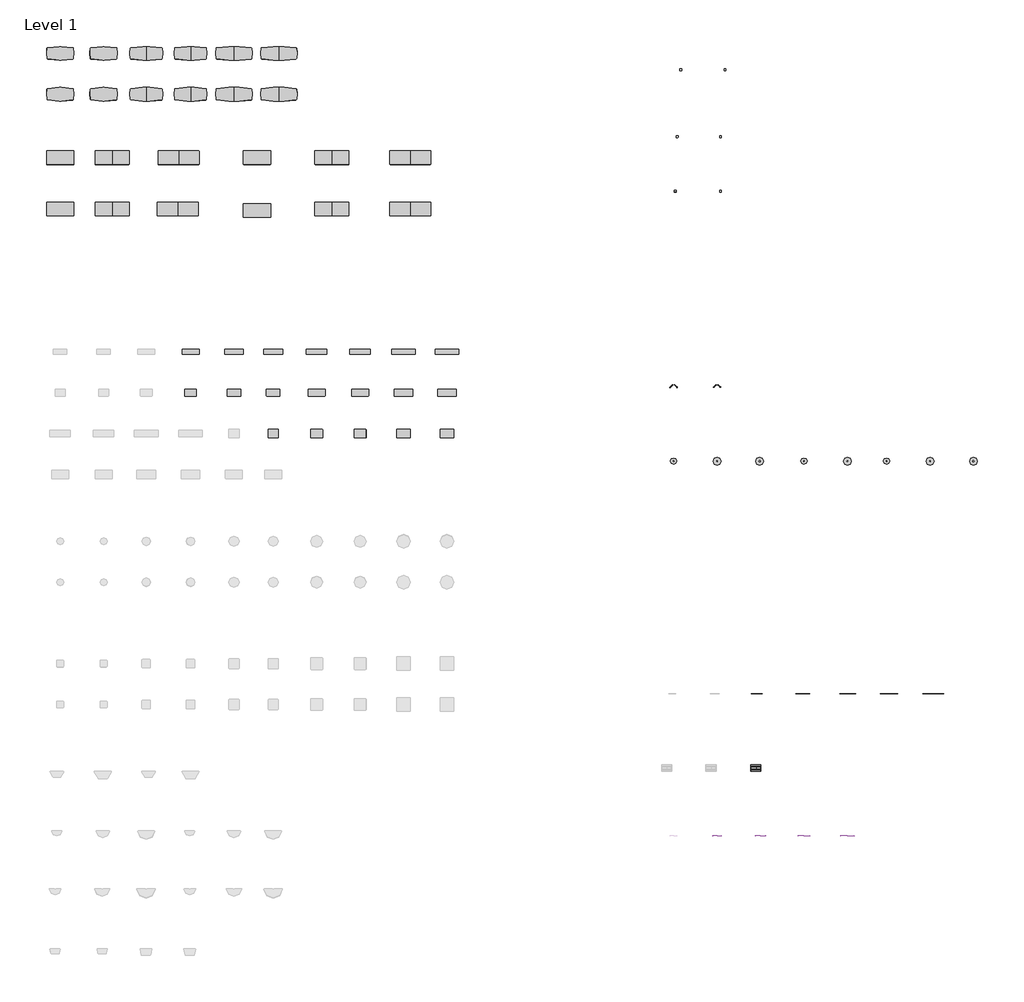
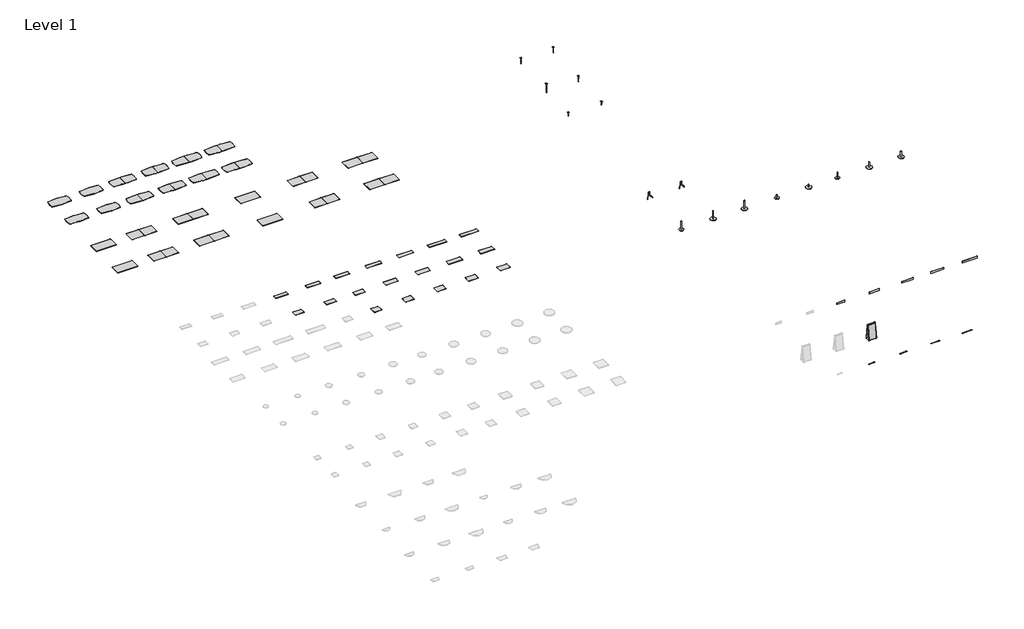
# One storey, part 2 of 2: 69 furniture elements.
"""IFC4 building model written with IfcOpenShell, lengths in millimetres."""

from ifc_helpers import new_model, si_unit, origin, place, context, project, spatial, transform, mapped, element, save
from components import furniture_00fd4bd9, furniture_b53e391e, furniture_6f91a869, furniture_bb55af10, furniture_92243f09, furniture_33526d85, furniture_eebffce9, furniture_dabab4df, furniture_efd10311, furniture_15fa902d, furniture_ad01e5af, furniture_11480e7a, furniture_8935219b, furniture_cd082a74, furniture_1_1_8_thickness_x_120w_hpl_d0bc5441, furniture_1_1_8_thickness_x_144w_hpl_d542ee99, furniture_1_1_8_thickness_x_96w_hpl_c60ebc48, furniture_1_1_8thickness_x_120w_hpl_e821b9b4, furniture_1_1_8thickness_x_144w_hpl_b3f6ecbc, furniture_1_1_8thickness_x_96w_hpl_99a8e3d7, furniture_1_3_8_thickness_x_120w_hpl_50a926c5, furniture_1_3_8_thickness_x_144w_hpl_0d01c1f1, furniture_1_3_8_thickness_x_96w_hpl_96594def, furniture_1_3_8thickness_x_120w_hpl_f4fb3ff3, furniture_1_3_8thickness_x_144w_hpl_966f59d3, furniture_1_3_8thickness_x_96w_hpl_a78dff32, furniture_30w_d64dd9da, furniture_36w_01fbb189, furniture_37_5_8w_fdee5de8, furniture_42w_a0c92efd, furniture_48w_9118acb4, furniture_49_5_8w_46fa39df, furniture_55_5_8w_ef73173b, furniture_61_5_8w_e17e0118, furniture_73_5_8w_1875b487, cafe_height_22dia_base_x_3dia_column_649dd6fb, cafe_height_28dia_base_x_3dia_column_d5198972, cafe_height_28dia_base_x_5dia_column_bb7a02e7, coffee_height_22dia_base_x_3dia_column_a589476b, coffee_height_28dia_base_x_3dia_column_50198b44, coffee_table_caster_74038b93, coffee_table_glide_f4786f68, one_post_leg_caster_7bd2f1b1, one_post_leg_caster_003eadf5, one_post_leg_glide_736f2f15, one_post_leg_glide_20b29ec5, markerboard_both_sides_742e3653, two_t_leg_caster_d90350da, two_t_leg_glide_a9bf8ce5

model = new_model("IFC4")

# Units and contexts
model_context = context("Model", 3, world=origin())
ifc_project = project(units=[si_unit("LENGTHUNIT", "METRE", prefix="MILLI")], contexts=[model_context])

# Site, building, storey
site = spatial("IfcSite", under=ifc_project)
building = spatial("IfcBuilding", under=site)
storey = spatial("IfcBuildingStorey", under=building, Name="Level 1", Elevation=0.0)

# Furniture
placement = place(None, origin())
furniture_shape = furniture_00fd4bd9(model_context)
element("IfcFurniture", 1, ObjectType="Steelcase - Groupwork - Table - Base : Round Table Base - 27 3/8H x 28dia Base x 5dia Column", at=placement, inside=storey, context=model_context, shape_type="MappedRepresentation", body=[
    mapped(furniture_shape, transform((855850.5766429, -26682.853043, 0.0), x_axis=(1.0, 0.0, 0.0), y_axis=(0.0, 1.0, 0.0), z_axis=(0.0, 0.0, 1.0))),
])
furniture_2_shape = furniture_b53e391e(model_context)
element("IfcFurniture", 2, ObjectType="Steelcase - Groupwork - Table - Base : Round Table Base - 27 3/8H x 28dia Base x 3dia Column", at=placement, inside=storey, context=model_context, shape_type="MappedRepresentation", body=[
    mapped(furniture_2_shape, transform((851964.3766429, -26682.853043, 0.0), x_axis=(1.0, 0.0, 0.0), y_axis=(0.0, 1.0, 0.0), z_axis=(0.0, 0.0, 1.0))),
])
furniture_3_shape = furniture_6f91a869(model_context)
element("IfcFurniture", 3, ObjectType="Steelcase - Groupwork - Table - Base : Round Table Base - 27 3/8H x 22dia Base x 3dia Column", at=placement, inside=storey, context=model_context, shape_type="MappedRepresentation", body=[
    mapped(furniture_3_shape, transform((848078.1766429, -26682.853043, 0.0), x_axis=(1.0, 0.0, 0.0), y_axis=(0.0, 1.0, 0.0), z_axis=(0.0, 0.0, 1.0))),
])
furniture_4_shape = furniture_bb55af10(model_context)
element("IfcFurniture", 4, ObjectType="Steelcase - Groupwork - Table - Top - Rectangular : 24D x 48W - HPL", at=placement, inside=storey, context=model_context, shape_type="MappedRepresentation", body=[
    mapped(furniture_4_shape, transform((789737.3766429, -20553.0236672, 0.0), x_axis=(1.0, 0.0, 0.0), y_axis=(0.0, 1.0, 0.0), z_axis=(0.0, 0.0, 1.0))),
])
element("IfcFurniture", 5, ObjectType="Steelcase - Groupwork - Table - Top - Rectangular : 24D x 48W - LPL", at=placement, inside=storey, context=model_context, shape_type="MappedRepresentation", body=[
    mapped(furniture_4_shape, transform((793242.5766429, -20553.0236672, 0.0), x_axis=(1.0, 0.0, 0.0), y_axis=(0.0, 1.0, 0.0), z_axis=(0.0, 0.0, 1.0))),
])
furniture_5_shape = furniture_92243f09(model_context)
element("IfcFurniture", 6, ObjectType="Steelcase - Groupwork - Table - Top - Rectangular : 18D x 66W - HPL", at=placement, inside=storey, context=model_context, shape_type="MappedRepresentation", body=[
    mapped(furniture_5_shape, transform((789737.3766429, -16895.4236672, 0.0), x_axis=(1.0, 0.0, 0.0), y_axis=(0.0, 1.0, 0.0), z_axis=(0.0, 0.0, 1.0))),
])
furniture_6_shape = furniture_33526d85(model_context)
element("IfcFurniture", 7, ObjectType="Steelcase - Groupwork - Table - Top - Rectangular : 18D x 72W - HPL", at=placement, inside=storey, context=model_context, shape_type="MappedRepresentation", body=[
    mapped(furniture_6_shape, transform((797128.7766429, -16895.4236672, 0.0), x_axis=(1.0, 0.0, 0.0), y_axis=(0.0, 1.0, 0.0), z_axis=(0.0, 0.0, 1.0))),
])
furniture_7_shape = furniture_eebffce9(model_context)
element("IfcFurniture", 8, ObjectType="Steelcase - Groupwork - Table - Top - Rectangular : 18D x 84W - HPL", at=placement, inside=storey, context=model_context, shape_type="MappedRepresentation", body=[
    mapped(furniture_7_shape, transform((804901.1766429, -16895.4236672, 0.0), x_axis=(1.0, 0.0, 0.0), y_axis=(0.0, 1.0, 0.0), z_axis=(0.0, 0.0, 1.0))),
])
furniture_8_shape = furniture_dabab4df(model_context)
element("IfcFurniture", 9, ObjectType="Steelcase - Groupwork - Table - Top - Rectangular : 24D x 60W - HPL", at=placement, inside=storey, context=model_context, shape_type="MappedRepresentation", body=[
    mapped(furniture_8_shape, transform((797128.7766429, -20553.0236672, 0.0), x_axis=(1.0, 0.0, 0.0), y_axis=(0.0, 1.0, 0.0), z_axis=(0.0, 0.0, 1.0))),
])
furniture_9_shape = furniture_efd10311(model_context)
element("IfcFurniture", 10, ObjectType="Steelcase - Groupwork - Table - Top - Rectangular : 24D x 66W - HPL", at=placement, inside=storey, context=model_context, shape_type="MappedRepresentation", body=[
    mapped(furniture_9_shape, transform((804901.1766429, -20553.0236672, 0.0), x_axis=(1.0, 0.0, 0.0), y_axis=(0.0, 1.0, 0.0), z_axis=(0.0, 0.0, 1.0))),
])
furniture_10_shape = furniture_15fa902d(model_context)
element("IfcFurniture", 11, ObjectType="Steelcase - Groupwork - Table - Top - Rectangular : 18D x 60W - LPL", at=placement, inside=storey, context=model_context, shape_type="MappedRepresentation", body=[
    mapped(furniture_10_shape, transform((785851.1766429, -16895.4236672, 0.0), x_axis=(1.0, 0.0, 0.0), y_axis=(0.0, 1.0, 0.0), z_axis=(0.0, 0.0, 1.0))),
])
element("IfcFurniture", 12, ObjectType="Steelcase - Groupwork - Table - Top - Rectangular : 18D x 66W - LPL", at=placement, inside=storey, context=model_context, shape_type="MappedRepresentation", body=[
    mapped(furniture_5_shape, transform((793242.5766429, -16895.4236672, 0.0), x_axis=(1.0, 0.0, 0.0), y_axis=(0.0, 1.0, 0.0), z_axis=(0.0, 0.0, 1.0))),
])
element("IfcFurniture", 13, ObjectType="Steelcase - Groupwork - Table - Top - Rectangular : 18D x 72W - LPL", at=placement, inside=storey, context=model_context, shape_type="MappedRepresentation", body=[
    mapped(furniture_6_shape, transform((801014.9766429, -16895.4236672, 0.0), x_axis=(1.0, 0.0, 0.0), y_axis=(0.0, 1.0, 0.0), z_axis=(0.0, 0.0, 1.0))),
])
element("IfcFurniture", 14, ObjectType="Steelcase - Groupwork - Table - Top - Rectangular : 18D x 84W - LPL", at=placement, inside=storey, context=model_context, shape_type="MappedRepresentation", body=[
    mapped(furniture_7_shape, transform((808787.3766429, -16895.4236672, 0.0), x_axis=(1.0, 0.0, 0.0), y_axis=(0.0, 1.0, 0.0), z_axis=(0.0, 0.0, 1.0))),
])
furniture_11_shape = furniture_ad01e5af(model_context)
element("IfcFurniture", 15, ObjectType="Steelcase - Groupwork - Table - Top - Rectangular : 24D x 42W - LPL", at=placement, inside=storey, context=model_context, shape_type="MappedRepresentation", body=[
    mapped(furniture_11_shape, transform((785851.1766429, -20553.0236672, 0.0), x_axis=(1.0, 0.0, 0.0), y_axis=(0.0, 1.0, 0.0), z_axis=(0.0, 0.0, 1.0))),
])
element("IfcFurniture", 16, ObjectType="Steelcase - Groupwork - Table - Top - Rectangular : 24D x 60W - LPL", at=placement, inside=storey, context=model_context, shape_type="MappedRepresentation", body=[
    mapped(furniture_8_shape, transform((801014.9766429, -20553.0236672, 0.0), x_axis=(1.0, 0.0, 0.0), y_axis=(0.0, 1.0, 0.0), z_axis=(0.0, 0.0, 1.0))),
])
element("IfcFurniture", 17, ObjectType="Steelcase - Groupwork - Table - Top - Rectangular : 24D x 66W - LPL", at=placement, inside=storey, context=model_context, shape_type="MappedRepresentation", body=[
    mapped(furniture_9_shape, transform((808787.3766429, -20553.0236672, 0.0), x_axis=(1.0, 0.0, 0.0), y_axis=(0.0, 1.0, 0.0), z_axis=(0.0, 0.0, 1.0))),
])
furniture_12_shape = furniture_11480e7a(model_context)
element("IfcFurniture", 18, ObjectType="Steelcase - Groupwork - Table - Top - Rectangular : 30D x 42W - HPL", at=placement, inside=storey, context=model_context, shape_type="MappedRepresentation", body=[
    mapped(furniture_12_shape, transform((797128.7766429, -24210.6236672, 0.0), x_axis=(1.0, 0.0, 0.0), y_axis=(0.0, 1.0, 0.0), z_axis=(0.0, 0.0, 1.0))),
])
furniture_13_shape = furniture_8935219b(model_context)
element("IfcFurniture", 19, ObjectType="Steelcase - Groupwork - Table - Top - Rectangular : 30D x 48W - HPL", at=placement, inside=storey, context=model_context, shape_type="MappedRepresentation", body=[
    mapped(furniture_13_shape, transform((804901.1766429, -24210.6236672, 0.0), x_axis=(1.0, 0.0, 0.0), y_axis=(0.0, 1.0, 0.0), z_axis=(0.0, 0.0, 1.0))),
])
furniture_14_shape = furniture_cd082a74(model_context)
element("IfcFurniture", 20, ObjectType="Steelcase - Groupwork - Table - Top - Rectangular : 30D x 36W - LPL", at=placement, inside=storey, context=model_context, shape_type="MappedRepresentation", body=[
    mapped(furniture_14_shape, transform((793242.5766429, -24210.6236672, 0.0), x_axis=(1.0, 0.0, 0.0), y_axis=(0.0, 1.0, 0.0), z_axis=(0.0, 0.0, 1.0))),
])
element("IfcFurniture", 21, ObjectType="Steelcase - Groupwork - Table - Top - Rectangular : 30D x 42W - LPL", at=placement, inside=storey, context=model_context, shape_type="MappedRepresentation", body=[
    mapped(furniture_12_shape, transform((801014.9766429, -24210.6236672, 0.0), x_axis=(1.0, 0.0, 0.0), y_axis=(0.0, 1.0, 0.0), z_axis=(0.0, 0.0, 1.0))),
])
element("IfcFurniture", 22, ObjectType="Steelcase - Groupwork - Table - Top - Rectangular : 30D x 48W - LPL", at=placement, inside=storey, context=model_context, shape_type="MappedRepresentation", body=[
    mapped(furniture_13_shape, transform((808787.3766429, -24210.6236672, 0.0), x_axis=(1.0, 0.0, 0.0), y_axis=(0.0, 1.0, 0.0), z_axis=(0.0, 0.0, 1.0))),
])
furniture_1_1_8_thickness_x_120w_hpl_shape = furniture_1_1_8_thickness_x_120w_hpl_d0bc5441(model_context)
element("IfcFurniture", 23, ObjectType="Steelcase - Groupwork - Table - Conference Table Top - Rectangular : 1 1/8 Thickness x 120W - HPL", at=placement, inside=storey, context=model_context, shape_type="MappedRepresentation", body=[
    mapped(furniture_1_1_8_thickness_x_120w_hpl_shape, transform((778840.7766429, -4111.2858647, 0.0), x_axis=(1.0, 0.0, 0.0), y_axis=(0.0, 1.0, 0.0), z_axis=(0.0, 0.0, 1.0))),
])
element("IfcFurniture", 24, ObjectType="Steelcase - Groupwork - Table - Conference Table Top - Rectangular : 1 1/8 Thickness x 120W - LPL", at=placement, inside=storey, context=model_context, shape_type="MappedRepresentation", body=[
    mapped(furniture_1_1_8_thickness_x_120w_hpl_shape, transform((778840.7766429, 460.7141353, 0.0), x_axis=(1.0, 0.0, 0.0), y_axis=(0.0, 1.0, 0.0), z_axis=(0.0, 0.0, 1.0))),
])
furniture_1_1_8_thickness_x_144w_hpl_shape = furniture_1_1_8_thickness_x_144w_hpl_d542ee99(model_context)
element("IfcFurniture", 25, ObjectType="Steelcase - Groupwork - Table - Conference Table Top - Rectangular : 1 1/8 Thickness x 144W - HPL", at=placement, inside=storey, context=model_context, shape_type="MappedRepresentation", body=[
    mapped(furniture_1_1_8_thickness_x_144w_hpl_shape, transform((784708.1766429, -4111.2858647, 0.0), x_axis=(1.0, 0.0, 0.0), y_axis=(0.0, 1.0, 0.0), z_axis=(0.0, 0.0, 1.0))),
])
element("IfcFurniture", 26, ObjectType="Steelcase - Groupwork - Table - Conference Table Top - Rectangular : 1 1/8 Thickness x 144W - LPL", at=placement, inside=storey, context=model_context, shape_type="MappedRepresentation", body=[
    mapped(furniture_1_1_8_thickness_x_144w_hpl_shape, transform((784784.3766429, 460.7141353, 0.0), x_axis=(1.0, 0.0, 0.0), y_axis=(0.0, 1.0, 0.0), z_axis=(0.0, 0.0, 1.0))),
])
furniture_1_1_8_thickness_x_96w_hpl_shape = furniture_1_1_8_thickness_x_96w_hpl_c60ebc48(model_context)
element("IfcFurniture", 27, ObjectType="Steelcase - Groupwork - Table - Conference Table Top - Rectangular : 1 1/8 Thickness x 96W - HPL", at=placement, inside=storey, context=model_context, shape_type="MappedRepresentation", body=[
    mapped(furniture_1_1_8_thickness_x_96w_hpl_shape, transform((774192.5766429, -4111.2858647, 0.0), x_axis=(1.0, 0.0, 0.0), y_axis=(0.0, 1.0, 0.0), z_axis=(0.0, 0.0, 1.0))),
])
element("IfcFurniture", 28, ObjectType="Steelcase - Groupwork - Table - Conference Table Top - Rectangular : 1 1/8 Thickness x 96W - LPL", at=placement, inside=storey, context=model_context, shape_type="MappedRepresentation", body=[
    mapped(furniture_1_1_8_thickness_x_96w_hpl_shape, transform((774192.5766429, 460.7141353, 0.0), x_axis=(1.0, 0.0, 0.0), y_axis=(0.0, 1.0, 0.0), z_axis=(0.0, 0.0, 1.0))),
])
furniture_1_1_8thickness_x_120w_hpl_shape = furniture_1_1_8thickness_x_120w_hpl_e821b9b4(model_context)
element("IfcFurniture", 29, ObjectType="Steelcase - Groupwork - Table - Conference Table Top - Boat Shaped : 1 1/8Thickness x 120W - HPL", at=placement, inside=storey, context=model_context, shape_type="MappedRepresentation", body=[
    mapped(furniture_1_1_8thickness_x_120w_hpl_shape, transform((780641.1766429, 9183.9937122, 0.0), x_axis=(1.0, 0.0, 0.0), y_axis=(0.0, 1.0, 0.0), z_axis=(0.0, 0.0, 1.0))),
])
element("IfcFurniture", 30, ObjectType="Steelcase - Groupwork - Table - Conference Table Top - Boat Shaped : 1 1/8Thickness x 120W - LPL", at=placement, inside=storey, context=model_context, shape_type="MappedRepresentation", body=[
    mapped(furniture_1_1_8thickness_x_120w_hpl_shape, transform((784603.5766429, 9183.9937122, 0.0), x_axis=(1.0, 0.0, 0.0), y_axis=(0.0, 1.0, 0.0), z_axis=(0.0, 0.0, 1.0))),
])
furniture_1_1_8thickness_x_144w_hpl_shape = furniture_1_1_8thickness_x_144w_hpl_b3f6ecbc(model_context)
element("IfcFurniture", 31, ObjectType="Steelcase - Groupwork - Table - Conference Table Top - Boat Shaped : 1 1/8Thickness x 144W - HPL", at=placement, inside=storey, context=model_context, shape_type="MappedRepresentation", body=[
    mapped(furniture_1_1_8thickness_x_144w_hpl_shape, transform((788489.7766429, 9183.9937122, 0.0), x_axis=(1.0, 0.0, 0.0), y_axis=(0.0, 1.0, 0.0), z_axis=(0.0, 0.0, 1.0))),
])
element("IfcFurniture", 32, ObjectType="Steelcase - Groupwork - Table - Conference Table Top - Boat Shaped : 1 1/8Thickness x 144W - LPL", at=placement, inside=storey, context=model_context, shape_type="MappedRepresentation", body=[
    mapped(furniture_1_1_8thickness_x_144w_hpl_shape, transform((792502.9766429, 9183.9937122, 0.0), x_axis=(1.0, 0.0, 0.0), y_axis=(0.0, 1.0, 0.0), z_axis=(0.0, 0.0, 1.0))),
])
furniture_1_1_8thickness_x_96w_hpl_shape = furniture_1_1_8thickness_x_96w_hpl_99a8e3d7(model_context)
element("IfcFurniture", 33, ObjectType="Steelcase - Groupwork - Table - Conference Table Top - Boat Shaped : 1 1/8Thickness x 96W - HPL", at=placement, inside=storey, context=model_context, shape_type="MappedRepresentation", body=[
    mapped(furniture_1_1_8thickness_x_96w_hpl_shape, transform((772944.9766429, 9183.9937122, 0.0), x_axis=(1.0, 0.0, 0.0), y_axis=(0.0, 1.0, 0.0), z_axis=(0.0, 0.0, 1.0))),
])
element("IfcFurniture", 34, ObjectType="Steelcase - Groupwork - Table - Conference Table Top - Boat Shaped : 1 1/8Thickness x 96W - LPL", at=placement, inside=storey, context=model_context, shape_type="MappedRepresentation", body=[
    mapped(furniture_1_1_8thickness_x_96w_hpl_shape, transform((776831.1766429, 9183.9937122, 0.0), x_axis=(1.0, 0.0, 0.0), y_axis=(0.0, 1.0, 0.0), z_axis=(0.0, 0.0, 1.0))),
])
furniture_1_3_8_thickness_x_120w_hpl_shape = furniture_1_3_8_thickness_x_120w_hpl_50a926c5(model_context)
element("IfcFurniture", 35, ObjectType="Steelcase - Groupwork - Table - Conference Table Top - Rectangular : 1 3/8 Thickness x 120W - HPL", at=placement, inside=storey, context=model_context, shape_type="MappedRepresentation", body=[
    mapped(furniture_1_3_8_thickness_x_120w_hpl_shape, transform((798500.3766429, -4111.2858647, 0.0), x_axis=(1.0, 0.0, 0.0), y_axis=(0.0, 1.0, 0.0), z_axis=(0.0, 0.0, 1.0))),
])
element("IfcFurniture", 36, ObjectType="Steelcase - Groupwork - Table - Conference Table Top - Rectangular : 1 3/8 Thickness x 120W - LPL", at=placement, inside=storey, context=model_context, shape_type="MappedRepresentation", body=[
    mapped(furniture_1_3_8_thickness_x_120w_hpl_shape, transform((798500.3766429, 460.7141353, 0.0), x_axis=(1.0, 0.0, 0.0), y_axis=(0.0, 1.0, 0.0), z_axis=(0.0, 0.0, 1.0))),
])
furniture_1_3_8_thickness_x_144w_hpl_shape = furniture_1_3_8_thickness_x_144w_hpl_0d01c1f1(model_context)
element("IfcFurniture", 37, ObjectType="Steelcase - Groupwork - Table - Conference Table Top - Rectangular : 1 3/8 Thickness x 144W - HPL", at=placement, inside=storey, context=model_context, shape_type="MappedRepresentation", body=[
    mapped(furniture_1_3_8_thickness_x_144w_hpl_shape, transform((805510.7766429, -4111.2858647, 0.0), x_axis=(1.0, 0.0, 0.0), y_axis=(0.0, 1.0, 0.0), z_axis=(0.0, 0.0, 1.0))),
])
element("IfcFurniture", 38, ObjectType="Steelcase - Groupwork - Table - Conference Table Top - Rectangular : 1 3/8 Thickness x 144W - LPL", at=placement, inside=storey, context=model_context, shape_type="MappedRepresentation", body=[
    mapped(furniture_1_3_8_thickness_x_144w_hpl_shape, transform((805510.7766429, 460.7141353, 0.0), x_axis=(1.0, 0.0, 0.0), y_axis=(0.0, 1.0, 0.0), z_axis=(0.0, 0.0, 1.0))),
])
furniture_1_3_8_thickness_x_96w_hpl_shape = furniture_1_3_8_thickness_x_96w_hpl_96594def(model_context)
element("IfcFurniture", 39, ObjectType="Steelcase - Groupwork - Table - Conference Table Top - Rectangular : 1 3/8 Thickness x 96W - HPL", at=placement, inside=storey, context=model_context, shape_type="MappedRepresentation", body=[
    mapped(furniture_1_3_8_thickness_x_96w_hpl_shape, transform((791794.7766429, -4263.6858647, 0.0), x_axis=(1.0, 0.0, 0.0), y_axis=(0.0, 1.0, 0.0), z_axis=(0.0, 0.0, 1.0))),
])
element("IfcFurniture", 40, ObjectType="Steelcase - Groupwork - Table - Conference Table Top - Rectangular : 1 3/8 Thickness x 96W - LPL", at=placement, inside=storey, context=model_context, shape_type="MappedRepresentation", body=[
    mapped(furniture_1_3_8_thickness_x_96w_hpl_shape, transform((791794.7766429, 460.7141353, 0.0), x_axis=(1.0, 0.0, 0.0), y_axis=(0.0, 1.0, 0.0), z_axis=(0.0, 0.0, 1.0))),
])
furniture_1_3_8thickness_x_120w_hpl_shape = furniture_1_3_8thickness_x_120w_hpl_f4fb3ff3(model_context)
element("IfcFurniture", 41, ObjectType="Steelcase - Groupwork - Table - Conference Table Top - Boat Shaped : 1 3/8Thickness x 120W - HPL", at=placement, inside=storey, context=model_context, shape_type="MappedRepresentation", body=[
    mapped(furniture_1_3_8thickness_x_120w_hpl_shape, transform((780641.1766429, 5526.3937122, 0.0), x_axis=(1.0, 0.0, 0.0), y_axis=(0.0, 1.0, 0.0), z_axis=(0.0, 0.0, 1.0))),
])
element("IfcFurniture", 42, ObjectType="Steelcase - Groupwork - Table - Conference Table Top - Boat Shaped : 1 3/8Thickness x 120W - LPL", at=placement, inside=storey, context=model_context, shape_type="MappedRepresentation", body=[
    mapped(furniture_1_3_8thickness_x_120w_hpl_shape, transform((784603.5766429, 5526.3937122, 0.0), x_axis=(1.0, 0.0, 0.0), y_axis=(0.0, 1.0, 0.0), z_axis=(0.0, 0.0, 1.0))),
])
furniture_1_3_8thickness_x_144w_hpl_shape = furniture_1_3_8thickness_x_144w_hpl_966f59d3(model_context)
element("IfcFurniture", 43, ObjectType="Steelcase - Groupwork - Table - Conference Table Top - Boat Shaped : 1 3/8Thickness x 144W - HPL", at=placement, inside=storey, context=model_context, shape_type="MappedRepresentation", body=[
    mapped(furniture_1_3_8thickness_x_144w_hpl_shape, transform((788489.7766429, 5526.3937122, 0.0), x_axis=(1.0, 0.0, 0.0), y_axis=(0.0, 1.0, 0.0), z_axis=(0.0, 0.0, 1.0))),
])
element("IfcFurniture", 44, ObjectType="Steelcase - Groupwork - Table - Conference Table Top - Boat Shaped : 1 3/8Thickness x 144W - LPL", at=placement, inside=storey, context=model_context, shape_type="MappedRepresentation", body=[
    mapped(furniture_1_3_8thickness_x_144w_hpl_shape, transform((792502.9766429, 5526.3937122, 0.0), x_axis=(1.0, 0.0, 0.0), y_axis=(0.0, 1.0, 0.0), z_axis=(0.0, 0.0, 1.0))),
])
furniture_1_3_8thickness_x_96w_hpl_shape = furniture_1_3_8thickness_x_96w_hpl_a78dff32(model_context)
element("IfcFurniture", 45, ObjectType="Steelcase - Groupwork - Table - Conference Table Top - Boat Shaped : 1 3/8Thickness x 96W - HPL", at=placement, inside=storey, context=model_context, shape_type="MappedRepresentation", body=[
    mapped(furniture_1_3_8thickness_x_96w_hpl_shape, transform((772944.9766429, 5526.3937122, 0.0), x_axis=(1.0, 0.0, 0.0), y_axis=(0.0, 1.0, 0.0), z_axis=(0.0, 0.0, 1.0))),
])
element("IfcFurniture", 46, ObjectType="Steelcase - Groupwork - Table - Conference Table Top - Boat Shaped : 1 3/8Thickness x 96W - LPL", at=placement, inside=storey, context=model_context, shape_type="MappedRepresentation", body=[
    mapped(furniture_1_3_8thickness_x_96w_hpl_shape, transform((776831.1766429, 5526.3937122, 0.0), x_axis=(1.0, 0.0, 0.0), y_axis=(0.0, 1.0, 0.0), z_axis=(0.0, 0.0, 1.0))),
])
furniture_30w_shape = furniture_30w_d64dd9da(model_context)
element("IfcFurniture", 47, ObjectType="Steelcase - Groupwork - Marker Tray : 30W", at=placement, inside=storey, context=model_context, shape_type="MappedRepresentation", body=[
    mapped(furniture_30w_shape, transform((832535.5356429, -60427.7848693, 0.0), x_axis=(1.0, 0.0, 0.0), y_axis=(0.0, 1.0, 0.0), z_axis=(0.0, 0.0, 1.0))),
])
furniture_36w_shape = furniture_36w_01fbb189(model_context)
element("IfcFurniture", 48, ObjectType="Steelcase - Groupwork - Marker Tray : 36W", at=placement, inside=storey, context=model_context, shape_type="MappedRepresentation", body=[
    mapped(furniture_36w_shape, transform((836345.5356429, -60427.7848693, 0.0), x_axis=(1.0, 0.0, 0.0), y_axis=(0.0, 1.0, 0.0), z_axis=(0.0, 0.0, 1.0))),
])
furniture_37_5_8w_shape = furniture_37_5_8w_fdee5de8(model_context)
element("IfcFurniture", 49, ObjectType="Steelcase - Groupwork - Table Component - Modesty Panel : 37 5/8W", at=placement, inside=storey, context=model_context, shape_type="MappedRepresentation", body=[
    mapped(furniture_37_5_8w_shape, transform((835585.1790493, -46899.1030351, 0.0), x_axis=(1.0, 0.0, 0.0), y_axis=(0.0, 1.0, 0.0), z_axis=(0.0, 0.0, 1.0))),
])
furniture_42w_shape = furniture_42w_a0c92efd(model_context)
element("IfcFurniture", 50, ObjectType="Steelcase - Groupwork - Marker Tray : 42W", at=placement, inside=storey, context=model_context, shape_type="MappedRepresentation", body=[
    mapped(furniture_42w_shape, transform((840155.5356429, -60427.7848693, 0.0), x_axis=(1.0, 0.0, 0.0), y_axis=(0.0, 1.0, 0.0), z_axis=(0.0, 0.0, 1.0))),
])
furniture_48w_shape = furniture_48w_9118acb4(model_context)
element("IfcFurniture", 51, ObjectType="Steelcase - Groupwork - Marker Tray : 48W", at=placement, inside=storey, context=model_context, shape_type="MappedRepresentation", body=[
    mapped(furniture_48w_shape, transform((843965.5356429, -60427.7848693, 0.0), x_axis=(1.0, 0.0, 0.0), y_axis=(0.0, 1.0, 0.0), z_axis=(0.0, 0.0, 1.0))),
])
furniture_49_5_8w_shape = furniture_49_5_8w_46fa39df(model_context)
element("IfcFurniture", 52, ObjectType="Steelcase - Groupwork - Table Component - Modesty Panel : 49 5/8W", at=placement, inside=storey, context=model_context, shape_type="MappedRepresentation", body=[
    mapped(furniture_49_5_8w_shape, transform((839699.9790493, -46899.1030351, 0.0), x_axis=(1.0, 0.0, 0.0), y_axis=(0.0, 1.0, 0.0), z_axis=(0.0, 0.0, 1.0))),
])
furniture_55_5_8w_shape = furniture_55_5_8w_ef73173b(model_context)
element("IfcFurniture", 53, ObjectType="Steelcase - Groupwork - Table Component - Modesty Panel : 55 5/8W", at=placement, inside=storey, context=model_context, shape_type="MappedRepresentation", body=[
    mapped(furniture_55_5_8w_shape, transform((843738.5790493, -46899.1030351, 0.0), x_axis=(1.0, 0.0, 0.0), y_axis=(0.0, 1.0, 0.0), z_axis=(0.0, 0.0, 1.0))),
])
furniture_61_5_8w_shape = furniture_61_5_8w_e17e0118(model_context)
element("IfcFurniture", 54, ObjectType="Steelcase - Groupwork - Table Component - Modesty Panel : 61 5/8W", at=placement, inside=storey, context=model_context, shape_type="MappedRepresentation", body=[
    mapped(furniture_61_5_8w_shape, transform((847396.1790493, -46899.1030351, 0.0), x_axis=(1.0, 0.0, 0.0), y_axis=(0.0, 1.0, 0.0), z_axis=(0.0, 0.0, 1.0))),
])
furniture_73_5_8w_shape = furniture_73_5_8w_1875b487(model_context)
element("IfcFurniture", 55, ObjectType="Steelcase - Groupwork - Table Component - Modesty Panel : 73 5/8W", at=placement, inside=storey, context=model_context, shape_type="MappedRepresentation", body=[
    mapped(furniture_73_5_8w_shape, transform((851358.5790493, -46899.1030351, 0.0), x_axis=(1.0, 0.0, 0.0), y_axis=(0.0, 1.0, 0.0), z_axis=(0.0, 0.0, 1.0))),
])
cafe_height_22dia_base_x_3dia_column_shape = cafe_height_22dia_base_x_3dia_column_649dd6fb(model_context)
element("IfcFurniture", 56, ObjectType="Steelcase - Groupwork - Table - Base : Cafe Height - 22dia Base x 3dia Column", at=placement, inside=storey, context=model_context, shape_type="MappedRepresentation", body=[
    mapped(cafe_height_22dia_base_x_3dia_column_shape, transform((829028.1766429, -26682.853043, 0.0), x_axis=(1.0, 0.0, 0.0), y_axis=(0.0, 1.0, 0.0), z_axis=(0.0, 0.0, 1.0))),
])
cafe_height_28dia_base_x_3dia_column_shape = cafe_height_28dia_base_x_3dia_column_d5198972(model_context)
element("IfcFurniture", 57, ObjectType="Steelcase - Groupwork - Table - Base : Cafe Height - 28dia Base x 3dia Column", at=placement, inside=storey, context=model_context, shape_type="MappedRepresentation", body=[
    mapped(cafe_height_28dia_base_x_3dia_column_shape, transform((832914.3766429, -26682.853043, 0.0), x_axis=(1.0, 0.0, 0.0), y_axis=(0.0, 1.0, 0.0), z_axis=(0.0, 0.0, 1.0))),
])
cafe_height_28dia_base_x_5dia_column_shape = cafe_height_28dia_base_x_5dia_column_bb7a02e7(model_context)
element("IfcFurniture", 58, ObjectType="Steelcase - Groupwork - Table - Base : Cafe Height - 28dia Base x 5dia Column", at=placement, inside=storey, context=model_context, shape_type="MappedRepresentation", body=[
    mapped(cafe_height_28dia_base_x_5dia_column_shape, transform((836724.3766429, -26682.853043, 0.0), x_axis=(1.0, 0.0, 0.0), y_axis=(0.0, 1.0, 0.0), z_axis=(0.0, 0.0, 1.0))),
])
coffee_height_22dia_base_x_3dia_column_shape = coffee_height_22dia_base_x_3dia_column_a589476b(model_context)
element("IfcFurniture", 59, ObjectType="Steelcase - Groupwork - Table - Base : Coffee Height - 22dia Base x 3dia Column", at=placement, inside=storey, context=model_context, shape_type="MappedRepresentation", body=[
    mapped(coffee_height_22dia_base_x_3dia_column_shape, transform((840686.7766429, -26682.853043, 0.0), x_axis=(1.0, 0.0, 0.0), y_axis=(0.0, 1.0, 0.0), z_axis=(0.0, 0.0, 1.0))),
])
coffee_height_28dia_base_x_3dia_column_shape = coffee_height_28dia_base_x_3dia_column_50198b44(model_context)
element("IfcFurniture", 60, ObjectType="Steelcase - Groupwork - Table - Base : Coffee Height - 28dia Base x 3dia Column", at=placement, inside=storey, context=model_context, shape_type="MappedRepresentation", body=[
    mapped(coffee_height_28dia_base_x_3dia_column_shape, transform((844572.9766429, -26682.853043, 0.0), x_axis=(1.0, 0.0, 0.0), y_axis=(0.0, 1.0, 0.0), z_axis=(0.0, 0.0, 1.0))),
])
coffee_table_caster_shape = coffee_table_caster_74038b93(model_context)
element("IfcFurniture", 61, ObjectType="Steelcase - Groupwork - Table Leg - Coffee Table : Coffee Table - Caster", at=placement, inside=storey, context=model_context, shape_type="MappedRepresentation", body=[
    mapped(coffee_table_caster_shape, transform((829167.8766397, -2533.3435238, 0.0), x_axis=(-1.0, 0.0, 0.0), y_axis=(0.0, -1.0, 0.0), z_axis=(0.0, 0.0, 1.0))),
])
coffee_table_glide_shape = coffee_table_glide_f4786f68(model_context)
element("IfcFurniture", 62, ObjectType="Steelcase - Groupwork - Table Leg - Coffee Table : Coffee Table - Glide", at=placement, inside=storey, context=model_context, shape_type="MappedRepresentation", body=[
    mapped(coffee_table_glide_shape, transform((833223.5491507, -2533.3435238, 0.0), x_axis=(1.0, 0.0, 0.0), y_axis=(0.0, 1.0, 0.0), z_axis=(0.0, 0.0, 1.0))),
])
one_post_leg_caster_shape = one_post_leg_caster_7bd2f1b1(model_context)
element("IfcFurniture", 63, ObjectType="Steelcase - Groupwork - Table Leg - Post - Adjustable : One Post Leg - Caster", at=placement, inside=storey, context=model_context, shape_type="MappedRepresentation", body=[
    mapped(one_post_leg_caster_shape, transform((829337.3491507, 2372.7555687, 0.0), x_axis=(1.0, 0.0, 0.0), y_axis=(0.0, 1.0, 0.0), z_axis=(0.0, 0.0, 1.0))),
])
one_post_leg_caster_2_shape = one_post_leg_caster_003eadf5(model_context)
element("IfcFurniture", 64, ObjectType="Steelcase - Groupwork - Table Leg - Post - Fixed : One Post Leg - Caster", at=placement, inside=storey, context=model_context, shape_type="MappedRepresentation", body=[
    mapped(one_post_leg_caster_2_shape, transform((829664.4326352, 8358.0707821, 0.0), x_axis=(1.0, 0.0, 0.0), y_axis=(0.0, 1.0, 0.0), z_axis=(0.0, 0.0, 1.0))),
])
one_post_leg_glide_shape = one_post_leg_glide_736f2f15(model_context)
element("IfcFurniture", 65, ObjectType="Steelcase - Groupwork - Table Leg - Post - Fixed : One Post Leg - Glide", at=placement, inside=storey, context=model_context, shape_type="MappedRepresentation", body=[
    mapped(one_post_leg_glide_shape, transform((833626.8326352, 8358.0707821, 0.0), x_axis=(1.0, 0.0, 0.0), y_axis=(0.0, 1.0, 0.0), z_axis=(0.0, 0.0, 1.0))),
])
one_post_leg_glide_2_shape = one_post_leg_glide_20b29ec5(model_context)
element("IfcFurniture", 66, ObjectType="Steelcase - Groupwork - Table Leg - Post - Adjustable : One Post Leg - Glide", at=placement, inside=storey, context=model_context, shape_type="MappedRepresentation", body=[
    mapped(one_post_leg_glide_2_shape, transform((833223.5491507, 2372.7555687, 0.0), x_axis=(1.0, 0.0, 0.0), y_axis=(0.0, 1.0, 0.0), z_axis=(0.0, 0.0, 1.0))),
])
markerboard_both_sides_shape = markerboard_both_sides_742e3653(model_context)
element("IfcFurniture", 67, ObjectType="Steelcase - Groupwork - Display Component - Mobile Easel : Tackboard Both Sides", at=placement, inside=storey, context=model_context, shape_type="MappedRepresentation", body=[
    mapped(markerboard_both_sides_shape, transform((835927.2497267, -54053.0816298, 0.0), x_axis=(1.0, 0.0, 0.0), y_axis=(0.0, 1.0, 0.0), z_axis=(0.0, 0.0, 1.0))),
])
two_t_leg_caster_shape = two_t_leg_caster_d90350da(model_context)
element("IfcFurniture", 68, ObjectType="Steelcase - Groupwork - Table Leg - Two T : Two T Leg - Caster", at=placement, inside=storey, context=model_context, shape_type="MappedRepresentation", body=[
    mapped(two_t_leg_caster_shape, transform((828612.8578184, -19833.2229199, 0.0), x_axis=(1.0, 0.0, 0.0), y_axis=(0.0, 1.0, 0.0), z_axis=(0.0, 0.0, 1.0))),
])
two_t_leg_glide_shape = two_t_leg_glide_a9bf8ce5(model_context)
element("IfcFurniture", 69, ObjectType="Steelcase - Groupwork - Table Leg - Two T : Two T Leg - Glide", at=placement, inside=storey, context=model_context, shape_type="MappedRepresentation", body=[
    mapped(two_t_leg_glide_shape, transform((832499.0578184, -19833.2229199, 0.0), x_axis=(1.0, 0.0, 0.0), y_axis=(0.0, 1.0, 0.0), z_axis=(0.0, 0.0, 1.0))),
])

save(model, "model.ifc")
